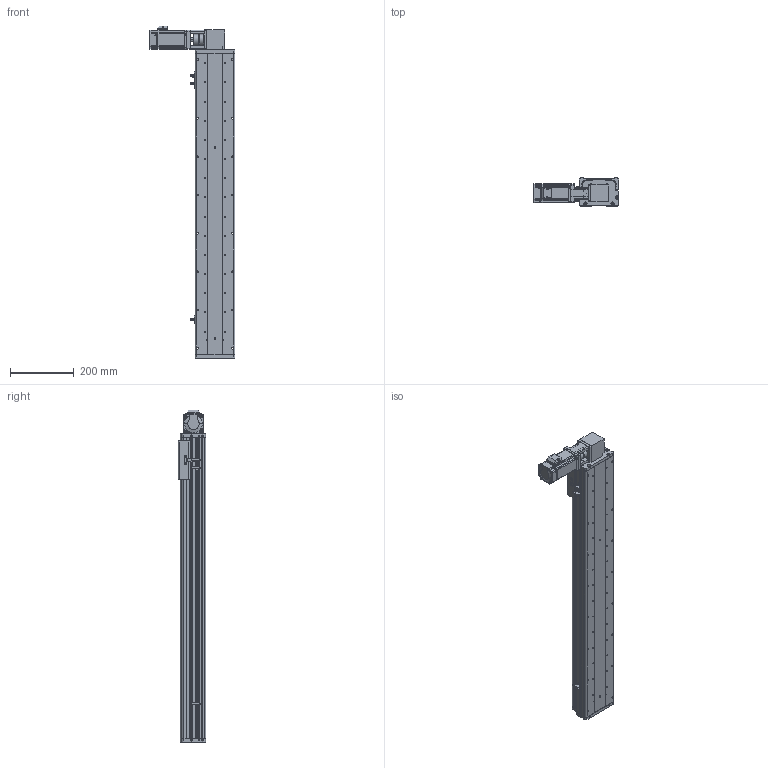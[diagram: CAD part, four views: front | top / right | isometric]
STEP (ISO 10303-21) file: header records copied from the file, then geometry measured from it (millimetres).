
FILE_DESCRIPTION (( 'STEP AP214' ), '1' );
FILE_NAME ('KSD125B-S750-MRT-CM.STEP', '2017-08-07T07:29:10', ( '微软用户' ), ( '微软中国' ), 'SwSTEP 2.0', 'SolidWorks 2014', '' );
FILE_SCHEMA (( 'AUTOMOTIVE_DESIGN' ));
Length unit declared in the file: millimetre
Products named in the file (16): KSD125模组750行程同步带-防尘盖; 125模组750行程同步带-底板; MHMD042G1CA_2_03; KSD125模组同步带-防撞垫2; CS-34X32-10X14; 100遵鎮湛假蚾啣1 ; 覜茼え68遵圉猾敕; U倰嫖萇假蚾璃; U倰嫖萇EEㄜSX672; KSD125模组同步带-防撞垫1; 100宽安装板同步带带电机座400W,86; 100宽马达安装板同步带右; 前端板-125宽模组同步带; 125模组同步带-尾端板1; KSD125模组同步带-滑动座1; KSD125B-S750-MRT-CM
Assembly tree (19 placements, depth 2):
  KSD125B-S750-MRT-CM
    KSD125模组同步带-滑动座1
    125模组同步带-尾端板1
    前端板-125宽模组同步带
    100宽马达安装板同步带右
    100宽安装板同步带带电机座400W,86
    KSD125模组同步带-防撞垫1
    U倰嫖萇EEㄜSX672  x3
    U倰嫖萇假蚾璃  x3
    覜茼え68遵圉猾敕
    100遵鎮湛假蚾啣1 
    CS-34X32-10X14
    KSD125模组同步带-防撞垫2
    MHMD042G1CA_2_03
    125模组750行程同步带-底板
    KSD125模组750行程同步带-防尘盖
Bounding box: 269 x 86 x 1039 mm (x, y, z)
Volume: 3243075.3 mm3; surface area: 1077118.9 mm2
Topology: 18 solids, 21 shells, 1678 faces, 4810 edges, 3172 vertices
Faces by surface type: cylinder 873, plane 702, cone 81, bspline 22
Entity records: 58926 total; most frequent: CARTESIAN_POINT 11924, DIRECTION 8621, ORIENTED_EDGE 8140, EDGE_CURVE 4148, AXIS2_PLACEMENT_3D 3201, VERTEX_POINT 2764, VECTOR 2219, LINE 2219
